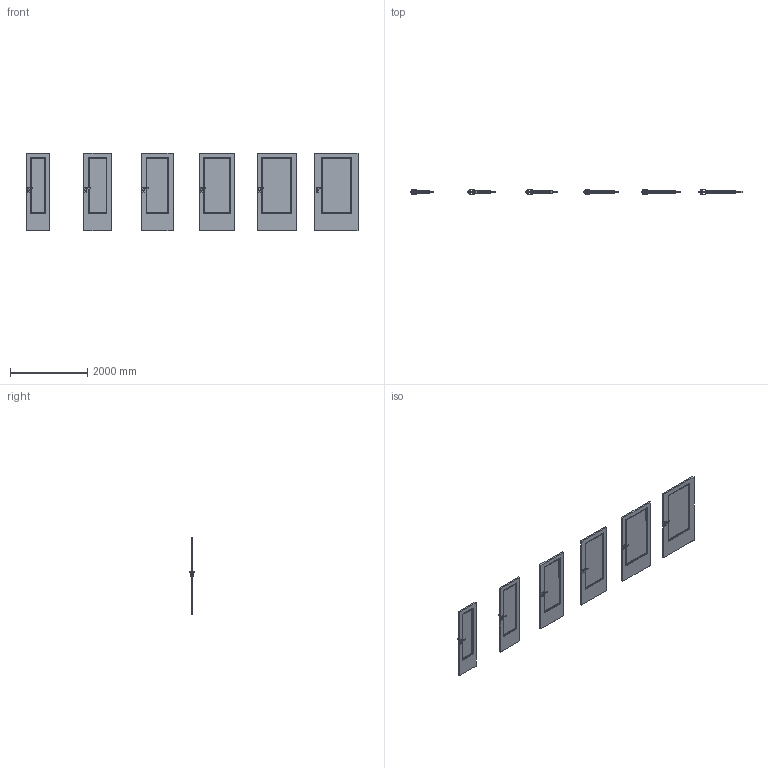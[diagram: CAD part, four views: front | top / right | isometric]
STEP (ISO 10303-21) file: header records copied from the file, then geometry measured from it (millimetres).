
FILE_DESCRIPTION(/* description */ (''),/* implementation_level */ '2;1');
FILE_NAME(/* name */ '049714_A_2-Skrzydło CPL model 1.3_ polska norma _PN__ bezprzylgowe..stp',/* time_stamp */ '2024-02-15T15:14:09+01:00',/* author */ (''),/* organization */ (''),/* preprocessor_version */ 'ST-DEVELOPER v16',/* originating_system */ 'SIEMENS PLM Software NX 11.0',/* authorisation */ '');
FILE_SCHEMA (('AUTOMOTIVE_DESIGN { 1 0 10303 214 3 1 1 1 }'));
Products named in the file (1): bkni76F8D571w2xu
Bounding box: 8618 x 153.27 x 2017 mm (x, y, z)
Volume: 277695710.2 mm3; surface area: 48241491.9 mm2
Topology: 217 solids, 217 shells, 4008 faces, 10194 edges, 6500 vertices
Faces by surface type: plane 2370, bspline 1182, cylinder 288, sphere 168
Entity records: 137091 total; most frequent: CARTESIAN_POINT 49193, ORIENTED_EDGE 20052, DIRECTION 14240, EDGE_CURVE 10026, LINE 6786, VECTOR 6786, VERTEX_POINT 6500, EDGE_LOOP 4092
